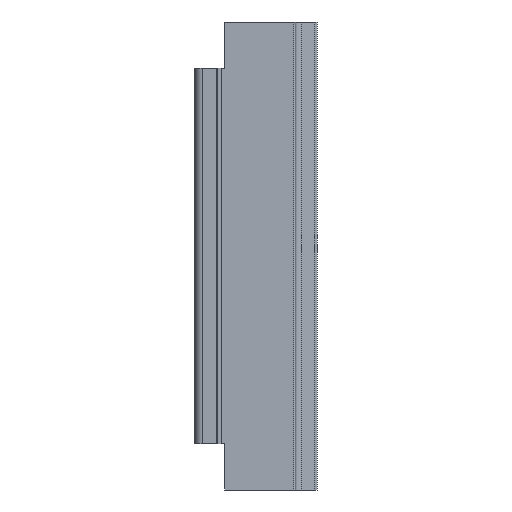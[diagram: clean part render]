
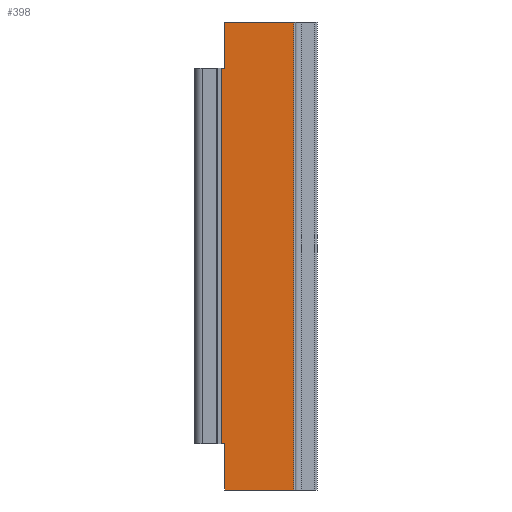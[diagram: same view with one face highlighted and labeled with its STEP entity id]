
A CAD part, left-side view. The second image highlights one B-rep face of the part: STEP entity #398.
In plain terms, the highlighted planar face has unit normal (-1, 0, 0).
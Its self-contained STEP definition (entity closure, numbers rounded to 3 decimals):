
#9 = VERTEX_POINT ( 'NONE', #1190 ) ;
#11 = VERTEX_POINT ( 'NONE', #1187 ) ;
#17 = VERTEX_POINT ( 'NONE', #1194 ) ;
#31 = VERTEX_POINT ( 'NONE', #1206 ) ;
#36 = VERTEX_POINT ( 'NONE', #1211 ) ;
#40 = VERTEX_POINT ( 'NONE', #1215 ) ;
#50 = VERTEX_POINT ( 'NONE', #1225 ) ;
#58 = LINE ( 'NONE', #486, #70 ) ;
#62 = LINE ( 'NONE', #328, #1320 ) ;
#70 = VECTOR ( 'NONE', #487, 1000. ) ;
#146 = VECTOR ( 'NONE', #503, 1000. ) ;
#161 = LINE ( 'NONE', #281, #165 ) ;
#165 = VECTOR ( 'NONE', #432, 1000. ) ;
#180 = LINE ( 'NONE', #460, #199 ) ;
#196 = LINE ( 'NONE', #498, #146 ) ;
#199 = VECTOR ( 'NONE', #465, 1000. ) ;
#263 = CARTESIAN_POINT ( 'NONE',  ( -2.8, -14.555, 368. ) ) ;
#266 = DIRECTION ( 'NONE',  ( 0., -1., 0. ) ) ;
#281 = CARTESIAN_POINT ( 'NONE',  ( -2.8, -14.555, 36.5 ) ) ;
#328 = CARTESIAN_POINT ( 'NONE',  ( -2.8, -17.7, 368. ) ) ;
#329 = DIRECTION ( 'NONE',  ( 0., 0., -1. ) ) ;
#334 = CARTESIAN_POINT ( 'NONE',  ( -2.8, -14.555, 331.5 ) ) ;
#335 = DIRECTION ( 'NONE',  ( 0., 1., 0. ) ) ;
#348 = CARTESIAN_POINT ( 'NONE',  ( -2.8, -72.063, 368. ) ) ;
#349 = DIRECTION ( 'NONE',  ( 0., 0., 1. ) ) ;
#398 = ADVANCED_FACE ( 'NONE', ( #626 ), #925, .F. ) ;
#417 = VERTEX_POINT ( 'NONE', #988 ) ;
#432 = DIRECTION ( 'NONE',  ( 0., -1., 0. ) ) ;
#460 = CARTESIAN_POINT ( 'NONE',  ( -2.8, -14.928, 368. ) ) ;
#465 = DIRECTION ( 'NONE',  ( 0., 0., -1. ) ) ;
#486 = CARTESIAN_POINT ( 'NONE',  ( -2.8, -14.555, 0. ) ) ;
#487 = DIRECTION ( 'NONE',  ( 0., -1., 0. ) ) ;
#498 = CARTESIAN_POINT ( 'NONE',  ( -2.8, -17.7, 368. ) ) ;
#503 = DIRECTION ( 'NONE',  ( 0., 0., -1. ) ) ;
#587 = VECTOR ( 'NONE', #266, 1000. ) ;
#591 = LINE ( 'NONE', #263, #587 ) ;
#626 = FACE_OUTER_BOUND ( 'NONE', #847, .T. ) ;
#841 = ORIENTED_EDGE ( 'NONE', *, *, #1152, .T. ) ;
#845 = ORIENTED_EDGE ( 'NONE', *, *, #1003, .F. ) ;
#847 = EDGE_LOOP ( 'NONE', ( #887, #876, #874, #859, #841, #900, #872, #845 ) ) ;
#859 = ORIENTED_EDGE ( 'NONE', *, *, #1012, .T. ) ;
#872 = ORIENTED_EDGE ( 'NONE', *, *, #1167, .T. ) ;
#874 = ORIENTED_EDGE ( 'NONE', *, *, #1027, .T. ) ;
#876 = ORIENTED_EDGE ( 'NONE', *, *, #1158, .T. ) ;
#887 = ORIENTED_EDGE ( 'NONE', *, *, #1074, .T. ) ;
#900 = ORIENTED_EDGE ( 'NONE', *, *, #1048, .T. ) ;
#925 = PLANE ( 'NONE',  #1000 ) ;
#928 = CARTESIAN_POINT ( 'NONE',  ( -2.8, -14.555, 368. ) ) ;
#937 = DIRECTION ( 'NONE',  ( 1., 0., 0. ) ) ;
#938 = DIRECTION ( 'NONE',  ( 0., 1., 0. ) ) ;
#988 = CARTESIAN_POINT ( 'NONE',  ( -2.8, -14.928, 36.5 ) ) ;
#1000 = AXIS2_PLACEMENT_3D ( 'NONE', #928, #937, #938 ) ;
#1003 = EDGE_CURVE ( 'NONE', #40, #50, #591, .T. ) ;
#1012 = EDGE_CURVE ( 'NONE', #417, #9, #161, .T. ) ;
#1027 = EDGE_CURVE ( 'NONE', #11, #417, #180, .T. ) ;
#1048 = EDGE_CURVE ( 'NONE', #31, #36, #58, .T. ) ;
#1074 = EDGE_CURVE ( 'NONE', #40, #17, #196, .T. ) ;
#1152 = EDGE_CURVE ( 'NONE', #9, #31, #62, .T. ) ;
#1158 = EDGE_CURVE ( 'NONE', #17, #11, #1313, .T. ) ;
#1167 = EDGE_CURVE ( 'NONE', #36, #50, #1304, .T. ) ;
#1187 = CARTESIAN_POINT ( 'NONE',  ( -2.8, -14.928, 331.5 ) ) ;
#1190 = CARTESIAN_POINT ( 'NONE',  ( -2.8, -17.7, 36.5 ) ) ;
#1194 = CARTESIAN_POINT ( 'NONE',  ( -2.8, -17.7, 331.5 ) ) ;
#1206 = CARTESIAN_POINT ( 'NONE',  ( -2.8, -17.7, 0. ) ) ;
#1211 = CARTESIAN_POINT ( 'NONE',  ( -2.8, -72.063, 0. ) ) ;
#1215 = CARTESIAN_POINT ( 'NONE',  ( -2.8, -17.7, 368. ) ) ;
#1225 = CARTESIAN_POINT ( 'NONE',  ( -2.8, -72.063, 368. ) ) ;
#1303 = VECTOR ( 'NONE', #349, 1000. ) ;
#1304 = LINE ( 'NONE', #348, #1303 ) ;
#1312 = VECTOR ( 'NONE', #335, 1000. ) ;
#1313 = LINE ( 'NONE', #334, #1312 ) ;
#1320 = VECTOR ( 'NONE', #329, 1000. ) ;
